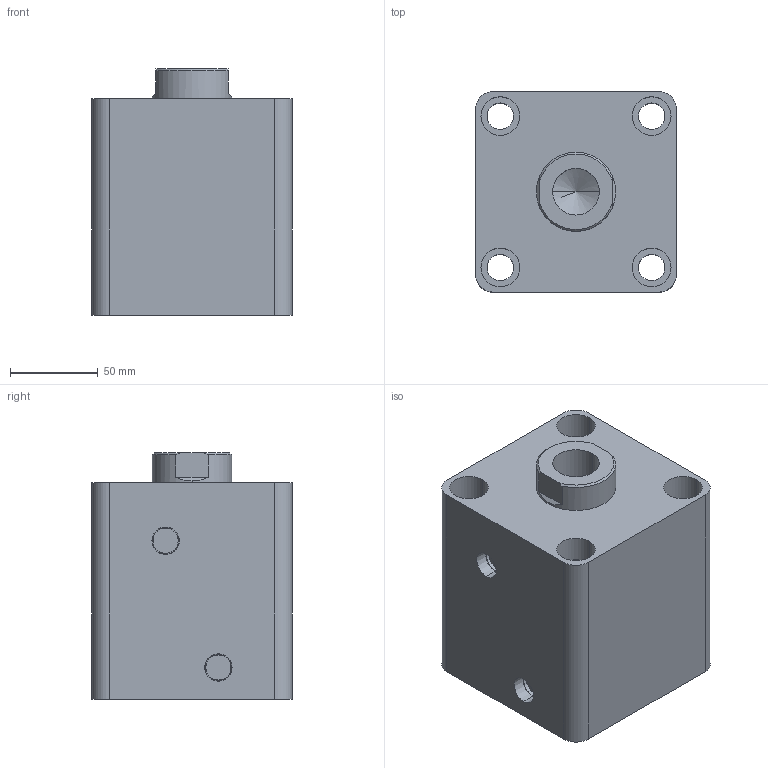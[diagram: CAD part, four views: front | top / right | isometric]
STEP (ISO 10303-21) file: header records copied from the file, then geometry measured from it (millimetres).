
FILE_DESCRIPTION (( 'STEP AP203' ), '1' );
FILE_NAME ('HTB-SD80-45N.STEP', '2019-10-07T08:25:16', ( '微软用户' ), ( '微软中国' ), 'SwSTEP 2.0', 'SolidWorks 2012', '' );
FILE_SCHEMA (( 'CONFIG_CONTROL_DESIGN' ));
Length unit declared in the file: millimetre
Products named in the file (3): HTB-SD80-45N; HTB-SD80-45N活塞杆; HTB-SD80-45掛极
Assembly tree (2 placements, depth 2):
  HTB-SD80-45N
    HTB-SD80-45掛极
    HTB-SD80-45N活塞杆
Bounding box: 114 x 114 x 140 mm (x, y, z)
Volume: 1323734.8 mm3; surface area: 169443.1 mm2
Topology: 2 solids, 2 shells, 83 faces, 184 edges, 119 vertices
Faces by surface type: cylinder 42, plane 27, cone 8, torus 6
Entity records: 2655 total; most frequent: DIRECTION 456, CARTESIAN_POINT 417, ORIENTED_EDGE 364, AXIS2_PLACEMENT_3D 194, EDGE_CURVE 182, VERTEX_POINT 119, EDGE_LOOP 107, CIRCLE 106
